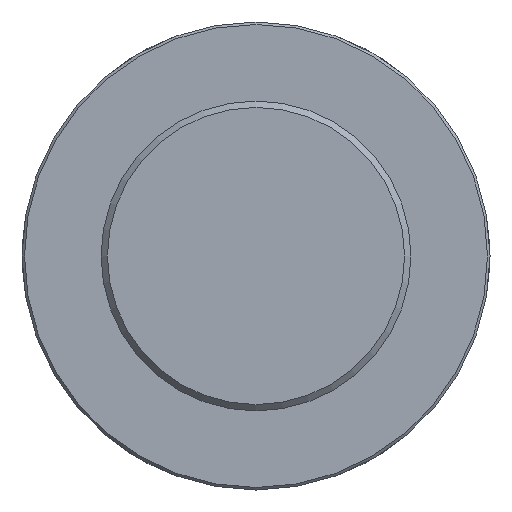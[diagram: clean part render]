
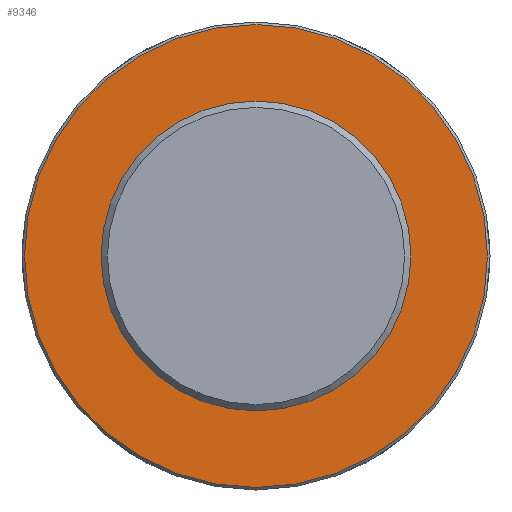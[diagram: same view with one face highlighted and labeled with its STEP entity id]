
A CAD part, front view. The second image highlights one B-rep face of the part: STEP entity #9346.
In plain terms, the highlighted planar face has unit normal (0, -1, 0) as drawn and (0, 1, 0) by its records, which use the part's own axes.
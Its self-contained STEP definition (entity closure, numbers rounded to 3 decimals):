
#73=CIRCLE('',#9727,183.);
#1284=FACE_OUTER_BOUND('',#1850,.T.);
#1850=EDGE_LOOP('',(#8549));
#4530=VERTEX_POINT('',#16766);
#5873=EDGE_CURVE('',#4530,#4530,#73,.T.);
#8549=ORIENTED_EDGE('',*,*,#5873,.F.);
#8851=PLANE('',#9730);
#9346=ADVANCED_FACE('',(#1284),#8851,.T.);
#9727=AXIS2_PLACEMENT_3D('',#16767,#11236,#11237);
#9730=AXIS2_PLACEMENT_3D('',#17005,#11242,#11243);
#11236=DIRECTION('center_axis',(0.,-1.,0.));
#11237=DIRECTION('ref_axis',(1.,0.,0.));
#11242=DIRECTION('center_axis',(0.,1.,0.));
#11243=DIRECTION('ref_axis',(0.,0.,1.));
#16766=CARTESIAN_POINT('',(-183.,170.,0.));
#16767=CARTESIAN_POINT('Origin',(0.,170.,0.));
#17005=CARTESIAN_POINT('Origin',(0.,170.,0.));
